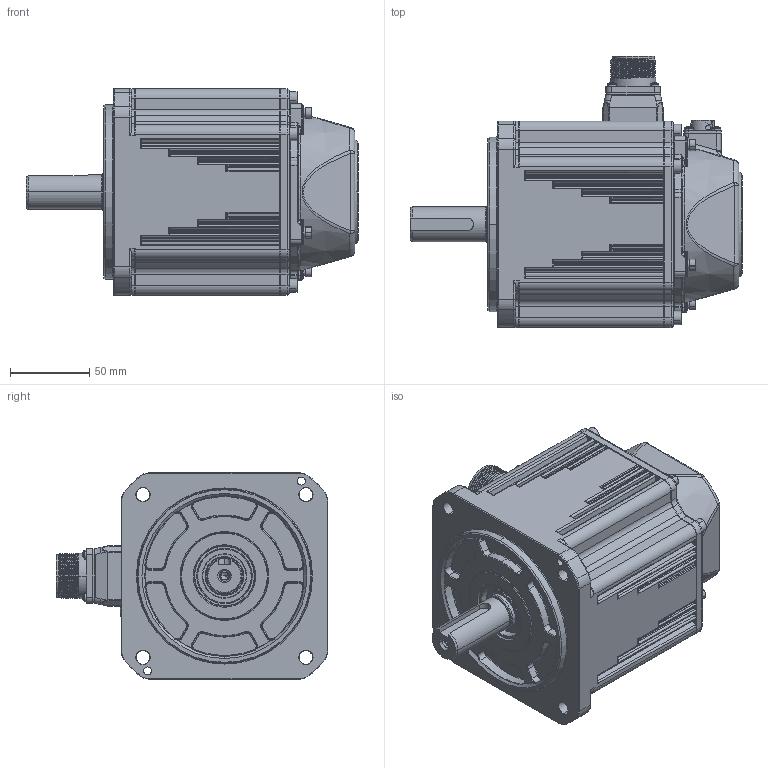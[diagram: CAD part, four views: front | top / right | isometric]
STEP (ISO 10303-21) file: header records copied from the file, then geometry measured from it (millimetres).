
FILE_DESCRIPTION (( 'STEP AP203' ), '1' );
FILE_NAME ('130儂釱-ACM2M-1300W梓袧.STEP', '2023-09-20T07:40:36', ( 'Microsoft' ), ( 'Microsoft' ), 'SwSTEP 2.0', 'SolidWorks 2021', '' );
FILE_SCHEMA (( 'CONFIG_CONTROL_DESIGN' ));
Length unit declared in the file: millimetre
Products named in the file (13): 螺钉 M3×25 十字盘头_M3×10; 130蛌粣09_LX晤鎢ん; 130前端盖0.85、1.3、1.8-渲染用_成品-1.3; CMVl-10弯型系列插头连接器;SC-CMVl-APlOCB；电泳黑色；三竹; 130儂釱-ACM2M-1300W梓袧; 蹟隊 M4℅14 戚芛; 130航插安装座-渲染用; 蚐猾; 螺钉 M5×20 杯头_M5×20; 130后端盖 压板式 高25.8 ADC12 LM -渲染用_加工; ﾂﾝｶ､｣ｻM3｡ﾁ10｣ｬﾊｮﾗﾖｲﾛﾅﾌﾍｷ_M3｡ﾁ10; cms3102a18-a6pc-z--压接式-渲染用_4芯; 130编码器盖2M 高44.9 尼龙+玻纤 ZX 渲染用
Assembly tree (27 placements, depth 2):
  130儂釱-ACM2M-1300W梓袧
    130前端盖0.85、1.3、1.8-渲染用_成品-1.3
    130后端盖 压板式 高25.8 ADC12 LM -渲染用_加工
    130蛌粣09_LX晤鎢ん
    130航插安装座-渲染用
    蚐猾
    cms3102a18-a6pc-z--压接式-渲染用_4芯
    CMVl-10弯型系列插头连接器;SC-CMVl-APlOCB；电泳黑色；三竹
    130编码器盖2M 高44.9 尼龙+玻纤 ZX 渲染用
    螺钉 M5×20 杯头_M5×20  x4
    蹟隊 M4℅14 戚芛  x7
    螺钉 M3×25 十字盘头_M3×10  x4
    ﾂﾝｶ､｣ｻM3｡ﾁ10｣ｬﾊｮﾗﾖｲﾛﾅﾌﾍｷ_M3｡ﾁ10  x4
Bounding box: 209.2 x 170.9 x 130 mm (x, y, z)
Volume: 2106055.9 mm3; surface area: 219889.9 mm2
Topology: 42 solids, 49 shells, 3434 faces, 8560 edges, 5255 vertices
Faces by surface type: plane 1318, cylinder 1108, torus 546, bspline 211, cone 187, sphere 64
Entity records: 121106 total; most frequent: CARTESIAN_POINT 50100, ORIENTED_EDGE 14592, DIRECTION 14563, EDGE_CURVE 7296, AXIS2_PLACEMENT_3D 5505, VERTEX_POINT 4555, VECTOR 3553, LINE 3553
